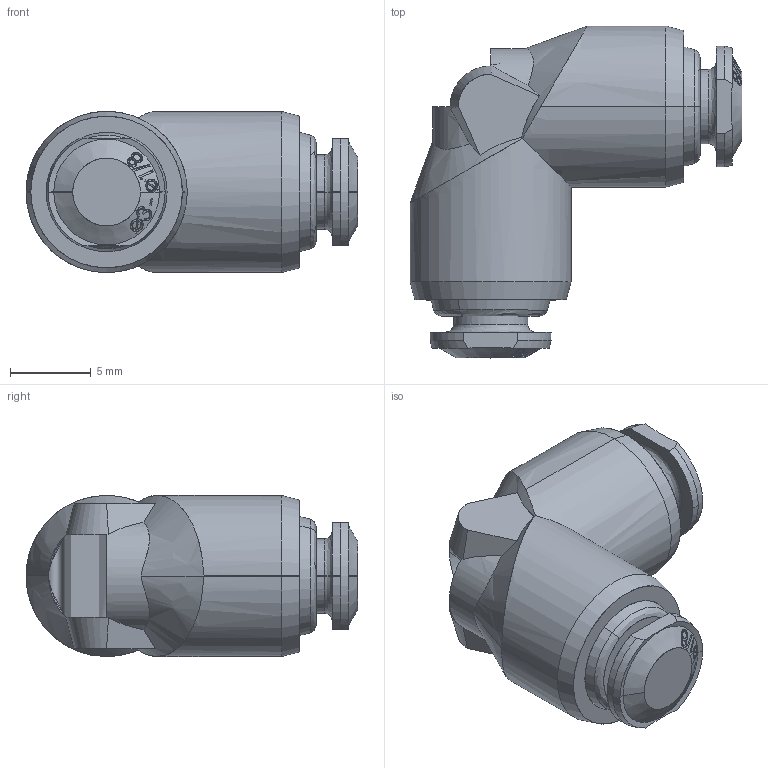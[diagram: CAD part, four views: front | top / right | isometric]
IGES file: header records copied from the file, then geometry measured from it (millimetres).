
Start section: SolidWorks IGES file using analytic representation for surfaces
Global section: file name: C:\Users\Cad01\Desktop\assiemi alfa\85130\8513000001A.igs; native system: SolidWorks 2012; preprocessor: SolidWorks 2012; author: Cad01; date: 121031.152201; units: millimetre
Bounding box: 20.6 x 20.6 x 10 mm (x, y, z)
Surface area: 1120.4 mm2 (no closed solid volume)
Topology: 0 solids, 0 shells, 281 faces, 3070 edges, 3069 vertices
Faces by surface type: bspline 208, revolution 73
